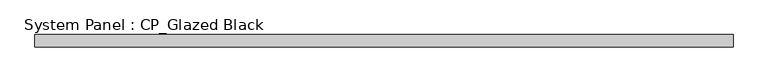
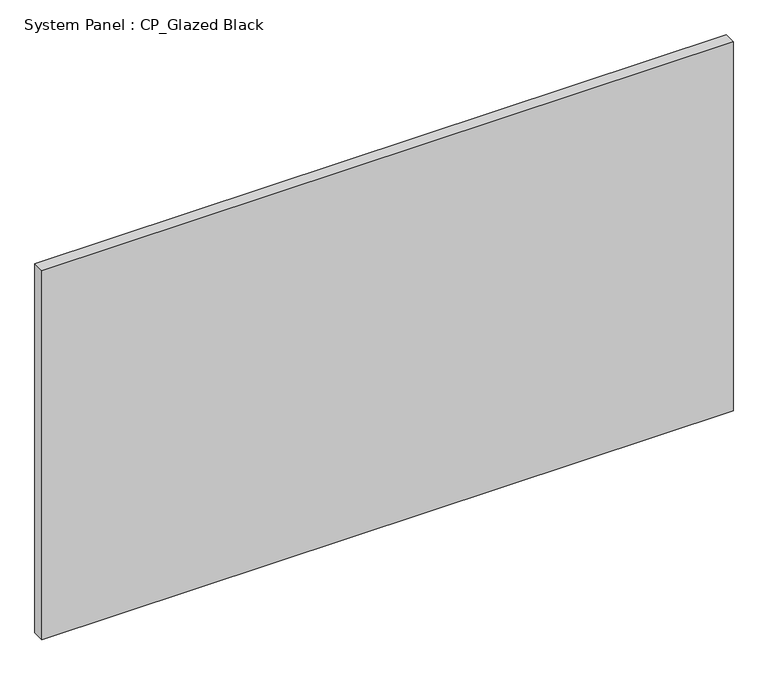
"""IFC4 building model written with IfcOpenShell, lengths in millimetres: plate geometry, System Panel : CP_Glazed Black."""

from ifc_helpers import new_model, si_unit, origin, origin_with_axes, place, context, project, spatial, polyline, outline, extrude, source, transform, mapped, element, save


def system_panel_cp_glazed_black_f4dbc3e4(model_context):
    return source(origin(), model_context, "Body", "SweptSolid", [
        extrude(outline(polyline([(725.4875, 19.05), (-725.4875, 19.05), (-725.4875, 44.45), (725.4875, 44.45), (725.4875, 19.05)])), origin_with_axes(), (0.0, 0.0, 1.0), 819.15),
    ])


if __name__ == "__main__":
    model = new_model("IFC4")
    model_context = context("Model", 3, world=origin())
    ifc_project = project(units=[si_unit("LENGTHUNIT", "METRE", prefix="MILLI")], contexts=[model_context])
    site = spatial("IfcSite", under=ifc_project)
    building = spatial("IfcBuilding", under=site)
    placement = place(None, origin())
    system_panel_cp_glazed_black_shape = system_panel_cp_glazed_black_f4dbc3e4(model_context)
    element("IfcPlate", 1, ObjectType="System Panel : CP_Glazed Black", at=placement, inside=building, context=model_context, shape_type="MappedRepresentation", body=[
        mapped(system_panel_cp_glazed_black_shape, transform((0.0, 0.0, 0.0), x_axis=(1.0, 0.0, 0.0), y_axis=(0.0, 1.0, 0.0), z_axis=(0.0, 0.0, 1.0))),
    ])
    save(model, "model.ifc")
